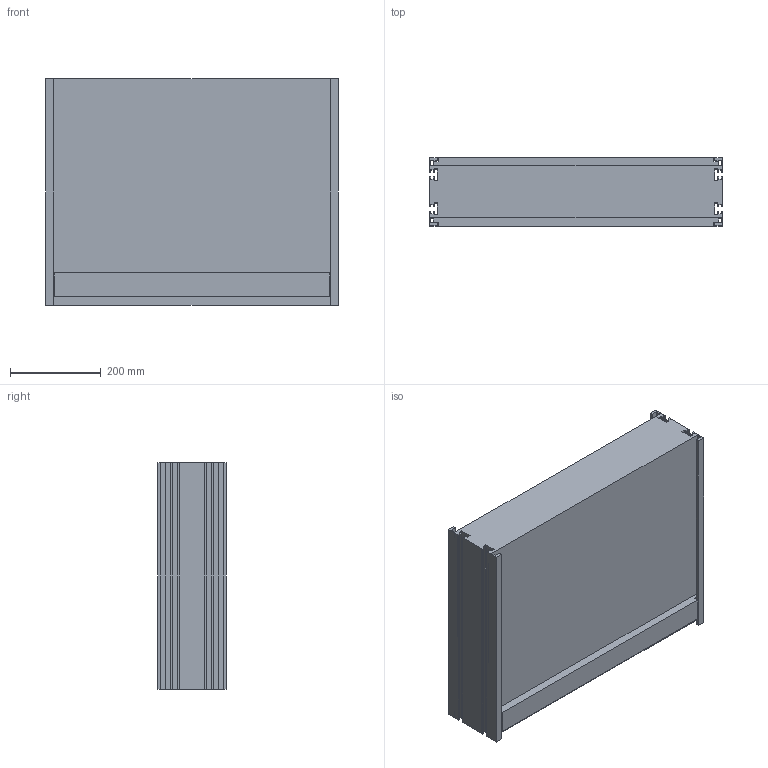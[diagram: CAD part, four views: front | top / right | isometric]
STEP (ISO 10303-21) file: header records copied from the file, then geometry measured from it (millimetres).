
FILE_DESCRIPTION (( 'STEP AP203' ), '1' );
FILE_NAME ('F2-2400-D500.STEP', '2009-01-23T09:37:26', ( 'faber' ), ( '' ), 'SwSTEP 2.0', 'SolidWorks 2008', '' );
FILE_SCHEMA (( 'CONFIG_CONTROL_DESIGN' ));
Length unit declared in the file: millimetre
Products named in the file (3): Poutre_2400; F2-2400-D500; Tapis_2400
Assembly tree (3 placements, depth 2):
  F2-2400-D500
    Poutre_2400
    Tapis_2400  x2
Bounding box: 647 x 152.88 x 500 mm (x, y, z)
Volume: 37994731.8 mm3; surface area: 1382654 mm2
Topology: 3 solids, 3 shells, 106 faces, 300 edges, 200 vertices
Faces by surface type: plane 106
Entity records: 3417 total; most frequent: CARTESIAN_POINT 562, ORIENTED_EDGE 552, DIRECTION 480, EDGE_CURVE 276, LINE 276, VECTOR 276, VERTEX_POINT 184, AXIS2_PLACEMENT_3D 102
